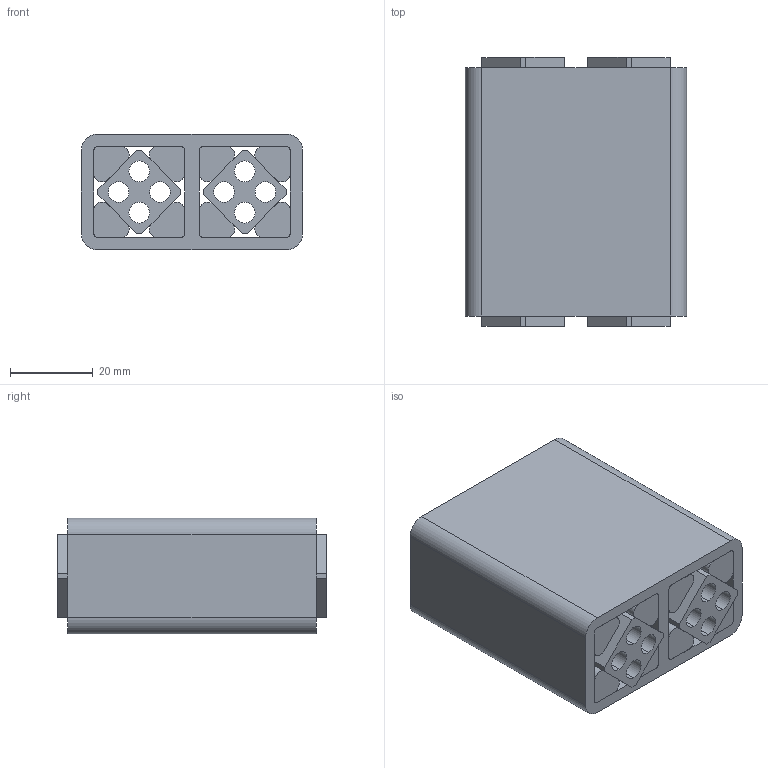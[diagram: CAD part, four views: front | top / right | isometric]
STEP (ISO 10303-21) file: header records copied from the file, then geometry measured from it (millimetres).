
FILE_DESCRIPTION((''),'2;1');
FILE_NAME('\\rostaofc\data\uw\save\daten_f\Normprogramm 3D\Gummifederelemente\DO-A15x60_01041003.stp','2005-01-10T07:48:55',('uw'),(''),'Autodesk Inventor 8','Autodesk Inventor 8','');
FILE_SCHEMA(('AUTOMOTIVE_DESIGN { 1 0 10303 214 1 1 1 1 }'));
Length unit declared in the file: millimetre
Products named in the file (4): DO-A15x60; 4_4_3758-005; 4_4_3758-010; 4_4_3758-011
Assembly tree (11 placements, depth 2):
  DO-A15x60
    4_4_3758-005
    4_4_3758-010  x2
    4_4_3758-011  x8
Bounding box: 53.5 x 65 x 28 mm (x, y, z)
Volume: 76232 mm3; surface area: 51640.6 mm2
Topology: 11 solids, 11 shells, 126 faces, 312 edges, 208 vertices
Faces by surface type: plane 74, cylinder 52
Entity records: 1826 total; most frequent: DIRECTION 318, CARTESIAN_POINT 297, ORIENTED_EDGE 276, EDGE_CURVE 138, AXIS2_PLACEMENT_3D 113, VERTEX_POINT 92, VECTOR 92, LINE 92
